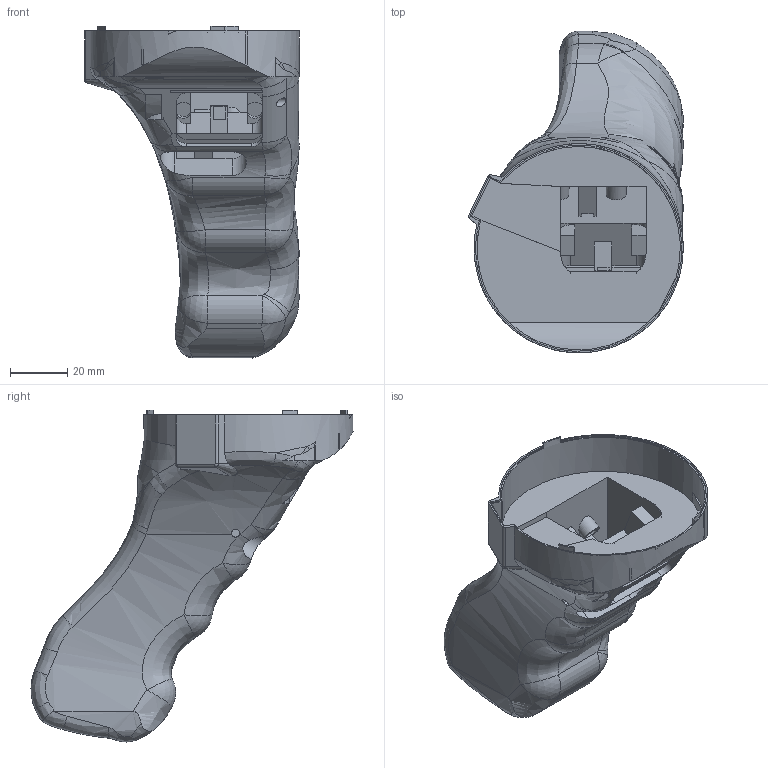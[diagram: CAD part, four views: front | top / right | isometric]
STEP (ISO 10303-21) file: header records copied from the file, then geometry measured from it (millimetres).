
FILE_DESCRIPTION(/* description */ ('STEP AP242 Edition 2','CAx-IF Rec.Pracs.---Representation and Presentation of Product Manufacturing Information (PMI)---4.0---2014-10-13','CAx-IF Rec.Pracs.---3D Tessellated Geometry---0.4---2014-09-14','2;1','CAx-IF Rec.Pracs.---User Defined Attributes---1.5---2016-08-15'),/* implementation_level */ '2;1');
FILE_NAME(/* name */ 'Controller - left controller body',/* time_stamp */ '2026-11-08T20:41:34Z',/* author */ (''),/* organization */ (''),/* preprocessor_version */ 'ST-DEVELOPER v20',/* originating_system */ 'ONSHAPE BY PTC INC, 1.223',/* authorisation */ ' ');
FILE_SCHEMA (('AP242_MANAGED_MODEL_BASED_3D_ENGINEERING_MIM_LF { 1 0 10303 442 3 1 4 }'));
Length unit declared in the file: metre
Products named in the file (1): left controller body
Bounding box: 74.87 x 112.35 x 115.84 mm (x, y, z)
Volume: 178521.1 mm3; surface area: 35234.1 mm2
Topology: 1 solids, 1 shells, 264 faces, 734 edges, 460 vertices
Faces by surface type: plane 119, bspline 68, cylinder 65, sphere 8, cone 2, torus 2
Full cylindrical faces by diameter (mm): 2.8 x2, 3 x2, 5 x2, 7 x2
Entity records: 9928 total; most frequent: CARTESIAN_POINT 3784, ORIENTED_EDGE 1418, DIRECTION 1077, EDGE_CURVE 709, VERTEX_POINT 455, AXIS2_PLACEMENT_3D 370, LINE 337, VECTOR 337
